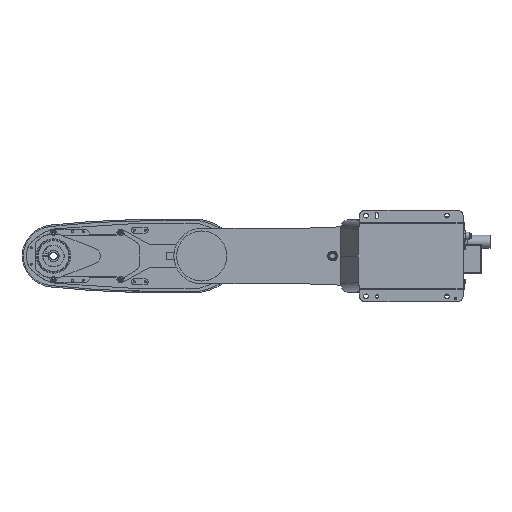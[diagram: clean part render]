
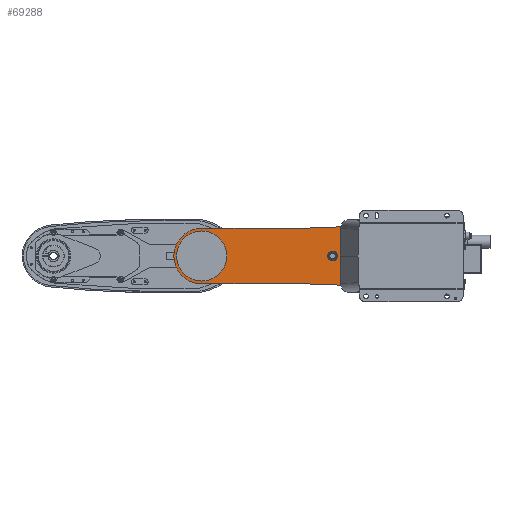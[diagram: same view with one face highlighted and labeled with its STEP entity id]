
A CAD part, front view. The second image highlights one B-rep face of the part: STEP entity #69288.
In plain terms, the highlighted planar face has unit normal (0, -1, 0).
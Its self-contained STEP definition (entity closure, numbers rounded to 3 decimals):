
#68220=DIRECTION('',(-1.,0.,0.));
#68221=VECTOR('',#68220,187.23);
#68222=CARTESIAN_POINT('',(325.,0.,
-51.64));
#68223=LINE('',#68222,#68221);
#68232=DIRECTION('',(1.,0.,0.));
#68233=VECTOR('',#68232,187.23);
#68234=CARTESIAN_POINT('',(137.77,0.,
51.639));
#68235=LINE('',#68234,#68233);
#68244=CARTESIAN_POINT('',(137.793,0.,-1050.346));
#68245=DIRECTION('',(0.,1.,0.));
#68246=DIRECTION('',(-0.13,0.,0.991));
#68247=AXIS2_PLACEMENT_3D('',#68244,#68245,#68246);
#68249=CARTESIAN_POINT('',(8.039,0.,60.104));
#68250=CARTESIAN_POINT('',(-0.484,0.,61.244));
#68251=CARTESIAN_POINT('',(-18.009,0.,59.843));
#68252=CARTESIAN_POINT('',(-41.099,0.,47.081));
#68253=CARTESIAN_POINT('',(-56.863,0.,25.929));
#68254=CARTESIAN_POINT('',(-62.495,0.,0.156));
#68255=CARTESIAN_POINT('',(-56.992,0.,-25.643));
#68256=CARTESIAN_POINT('',(-41.334,0.,-46.874));
#68257=CARTESIAN_POINT('',(-18.309,0.,-59.753));
#68258=CARTESIAN_POINT('',(-0.791,0.,-61.241));
#68259=CARTESIAN_POINT('',(7.738,0.,-60.144));
#68261=CARTESIAN_POINT('',(137.792,0.,1050.344));
#68262=DIRECTION('',(0.,1.,0.));
#68263=DIRECTION('',(0.,0.,-1.));
#68264=AXIS2_PLACEMENT_3D('',#68261,#68262,#68263);
#68266=CARTESIAN_POINT('',(325.,0.,
-51.64));
#68267=CARTESIAN_POINT('',(331.761,0.,
-51.64));
#68268=CARTESIAN_POINT('',(345.275,0.,
-48.951));
#68269=CARTESIAN_POINT('',(362.466,0.,
-37.466));
#68270=CARTESIAN_POINT('',(373.951,0.,
-20.276));
#68271=CARTESIAN_POINT('',(377.984,0.,
0.));
#68272=CARTESIAN_POINT('',(373.951,0.,
20.276));
#68273=CARTESIAN_POINT('',(362.466,0.,
37.466));
#68274=CARTESIAN_POINT('',(345.275,0.,
48.951));
#68275=CARTESIAN_POINT('',(331.761,0.,
51.64));
#68276=CARTESIAN_POINT('',(325.,0.,
51.64));
#68278=CARTESIAN_POINT('',(82.02,0.,0.));
#68279=DIRECTION('',(0.,1.,0.));
#68280=DIRECTION('',(0.,0.,1.));
#68281=AXIS2_PLACEMENT_3D('',#68278,#68279,#68280);
#68283=CARTESIAN_POINT('',(82.02,0.,0.));
#68284=DIRECTION('',(0.,1.,0.));
#68285=DIRECTION('',(0.,0.,-1.));
#68286=AXIS2_PLACEMENT_3D('',#68283,#68284,#68285);
#68288=CARTESIAN_POINT('',(325.,0.,0.));
#68289=DIRECTION('',(0.,1.,0.));
#68290=DIRECTION('',(0.,0.,-1.));
#68291=AXIS2_PLACEMENT_3D('',#68288,#68289,#68290);
#68293=CARTESIAN_POINT('',(325.,0.,0.));
#68294=DIRECTION('',(0.,1.,0.));
#68295=DIRECTION('',(0.,0.,1.));
#68296=AXIS2_PLACEMENT_3D('',#68293,#68294,#68295);
#68298=CARTESIAN_POINT('',(0.,0.,0.));
#68299=DIRECTION('',(0.,1.,0.));
#68300=DIRECTION('',(0.,0.,-1.));
#68301=AXIS2_PLACEMENT_3D('',#68298,#68299,#68300);
#68303=CARTESIAN_POINT('',(0.,0.,0.));
#68304=DIRECTION('',(0.,1.,0.));
#68305=DIRECTION('',(0.,0.,1.));
#68306=AXIS2_PLACEMENT_3D('',#68303,#68304,#68305);
#68744=CARTESIAN_POINT('',(137.77,0.,
-51.639));
#68746=VERTEX_POINT('',#68744);
#68748=CARTESIAN_POINT('',(7.738,0.,-60.144));
#68749=VERTEX_POINT('',#68748);
#68753=VERTEX_POINT('',#68249);
#68759=CARTESIAN_POINT('',(137.77,0.,
51.639));
#68760=VERTEX_POINT('',#68759);
#68761=CARTESIAN_POINT('',(325.,0.,
51.64));
#68762=VERTEX_POINT('',#68761);
#68763=CARTESIAN_POINT('',(325.,0.,
-51.64));
#68764=VERTEX_POINT('',#68763);
#68781=CARTESIAN_POINT('',(82.02,0.,-9.251));
#68783=VERTEX_POINT('',#68781);
#68787=CARTESIAN_POINT('',(82.02,0.,9.251));
#68788=VERTEX_POINT('',#68787);
#68833=CARTESIAN_POINT('',(0.,0.,-55.));
#68835=VERTEX_POINT('',#68833);
#68837=CARTESIAN_POINT('',(0.,0.,55.));
#68839=VERTEX_POINT('',#68837);
#68841=CARTESIAN_POINT('',(325.,0.,-46.49));
#68843=VERTEX_POINT('',#68841);
#68845=CARTESIAN_POINT('',(325.,0.,46.49));
#68847=VERTEX_POINT('',#68845);
#69257=CARTESIAN_POINT('',(137.77,0.,-1050.));
#69258=DIRECTION('',(0.,1.,0.));
#69259=DIRECTION('',(0.,0.,1.));
#69260=AXIS2_PLACEMENT_3D('',#69257,#69258,#69259);
#69261=PLANE('',#69260);
#69262=ORIENTED_EDGE('',*,*,#69030,.F.);
#69263=ORIENTED_EDGE('',*,*,#69244,.F.);
#69264=ORIENTED_EDGE('',*,*,#69174,.F.);
#69265=ORIENTED_EDGE('',*,*,#69133,.T.);
#69266=ORIENTED_EDGE('',*,*,#69112,.F.);
#69267=ORIENTED_EDGE('',*,*,#69051,.T.);
#69268=EDGE_LOOP('',(#69262,#69263,#69264,#69265,#69266,#69267));
#69269=FACE_OUTER_BOUND('',#69268,.F.);
#69271=ORIENTED_EDGE('',*,*,#69270,.F.);
#69273=ORIENTED_EDGE('',*,*,#69272,.F.);
#69274=EDGE_LOOP('',(#69271,#69273));
#69275=FACE_BOUND('',#69274,.F.);
#69277=ORIENTED_EDGE('',*,*,#69276,.F.);
#69279=ORIENTED_EDGE('',*,*,#69278,.F.);
#69280=EDGE_LOOP('',(#69277,#69279));
#69281=FACE_BOUND('',#69280,.F.);
#69283=ORIENTED_EDGE('',*,*,#69282,.F.);
#69285=ORIENTED_EDGE('',*,*,#69284,.F.);
#69286=EDGE_LOOP('',(#69283,#69285));
#69287=FACE_BOUND('',#69286,.F.);
#68248=CIRCLE('',#68247,998.706);
#68260=B_SPLINE_CURVE_WITH_KNOTS('',3,(#68249,#68250,#68251,#68252,#68253,
#68254,#68255,#68256,#68257,#68258,#68259),.UNSPECIFIED.,.F.,.F.,(4,1,1,1,1,1,1,
1,4),(0.,0.125,0.25,0.375,0.5,0.625,0.75,0.875,1.),
.UNSPECIFIED.);
#68265=CIRCLE('',#68264,998.705);
#68277=B_SPLINE_CURVE_WITH_KNOTS('',3,(#68266,#68267,#68268,#68269,#68270,
#68271,#68272,#68273,#68274,#68275,#68276),.UNSPECIFIED.,.F.,.F.,(4,1,1,1,1,1,1,
1,4),(0.,0.125,0.25,0.375,0.5,0.625,0.75,0.875,1.),
.UNSPECIFIED.);
#68282=CIRCLE('',#68281,9.251);
#68287=CIRCLE('',#68286,9.251);
#68292=CIRCLE('',#68291,46.49);
#68297=CIRCLE('',#68296,46.49);
#68302=CIRCLE('',#68301,55.);
#68307=CIRCLE('',#68306,55.);
#69030=EDGE_CURVE('',#68749,#68746,#68248,.T.);
#69051=EDGE_CURVE('',#68764,#68746,#68223,.T.);
#69112=EDGE_CURVE('',#68764,#68762,#68277,.T.);
#69133=EDGE_CURVE('',#68760,#68762,#68235,.T.);
#69174=EDGE_CURVE('',#68760,#68753,#68265,.T.);
#69244=EDGE_CURVE('',#68753,#68749,#68260,.T.);
#69270=EDGE_CURVE('',#68788,#68783,#68282,.T.);
#69272=EDGE_CURVE('',#68783,#68788,#68287,.T.);
#69276=EDGE_CURVE('',#68843,#68847,#68292,.T.);
#69278=EDGE_CURVE('',#68847,#68843,#68297,.T.);
#69282=EDGE_CURVE('',#68835,#68839,#68302,.T.);
#69284=EDGE_CURVE('',#68839,#68835,#68307,.T.);
#69288=ADVANCED_FACE('',(#69269,#69275,#69281,#69287),#69261,.F.);
